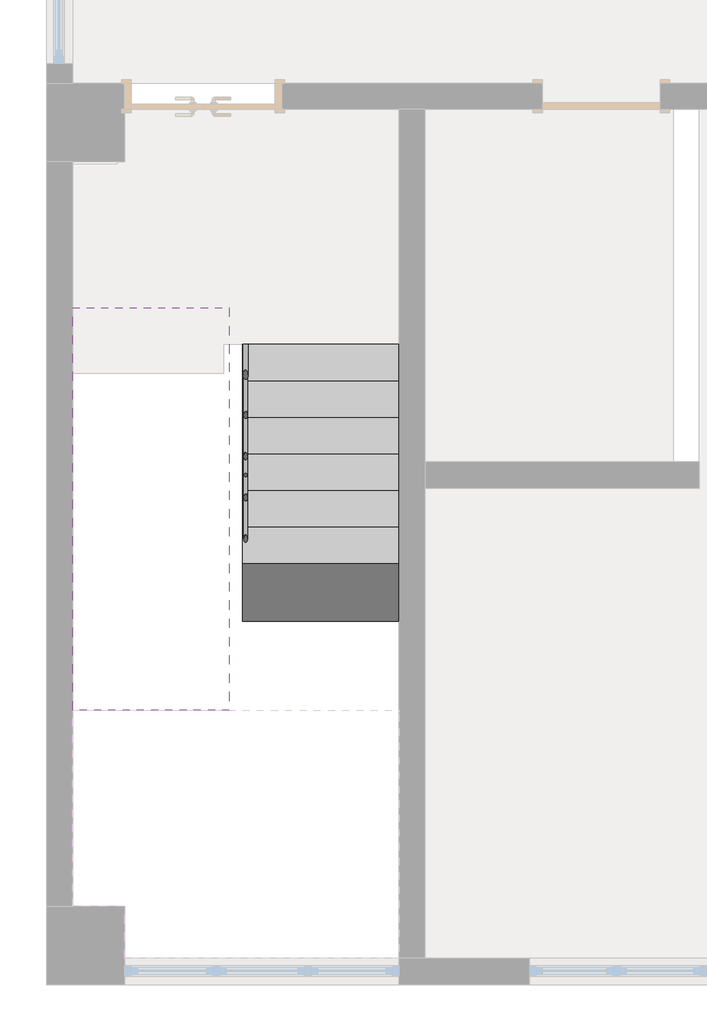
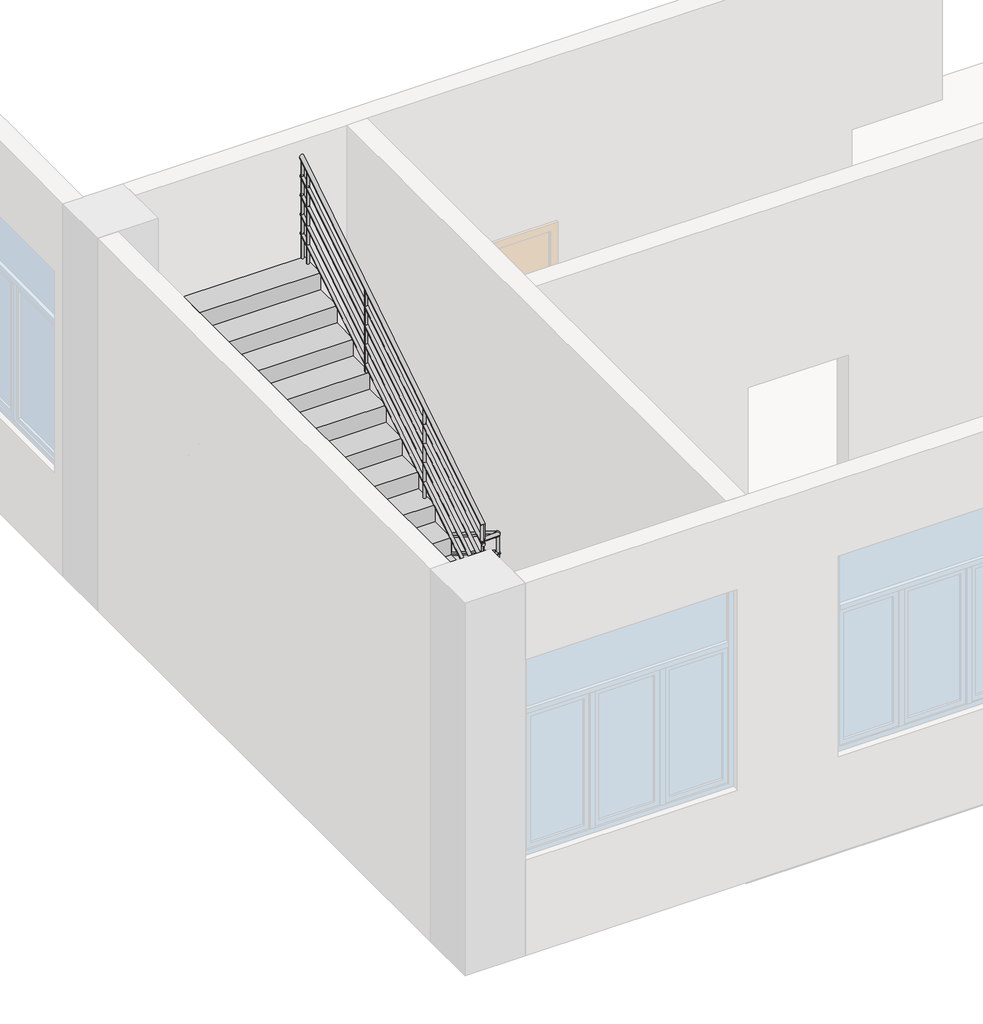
# One storey, part 2 of 5: 2 stair flights, 1 railing.
"""IFC4 building model written with IfcOpenShell, lengths in millimetres."""

from ifc_helpers import new_model, si_unit, point, frame, frame_2d, origin, place, context, project, spatial, circle_curve, ellipse_curve, trimmed, segment, composite_curve, outline, extrude, faceted_brep, element, save
from ifc_brep_helpers import plane_surface, cylinder_surface, advanced_brep

model = new_model("IFC4")

# Units and contexts
model_context = context("Model", 3, world=origin())
ifc_project = project(units=[si_unit("LENGTHUNIT", "METRE", prefix="MILLI")], contexts=[model_context])

# Site, building, storey
site = spatial("IfcSite", under=ifc_project)
building = spatial("IfcBuilding", under=site)
storey = spatial("IfcBuildingStorey", under=building, Name="标高 3", Elevation=3200.0)

# Railing
placement = place(None, origin())
element("IfcRailing", 1, ObjectType="900mm 圆管", at=placement, inside=storey, context=model_context, shape_type="SolidModel", body=[
    advanced_brep(
    [(-11176.3675258, -3836.6725016, 4253.6013354), (-11136.3675258, -3836.6725016, 4253.6013354), (-11176.3675258, -6630.472898, 6022.4035344), (-11136.3675258, -6664.2689672, 6043.8003964)],
    [
        (0, 1, ellipse_curve(frame((-11156.3675258, -3836.6725016, 4253.6013354), z_axis=(0.0, 1.0, 0.0), x_axis=(0.0, 0.0, -1.0)), 23.6713919, 20.0)),
        (1, 0, ellipse_curve(frame((-11156.3675258, -3836.6725016, 4253.6013354), z_axis=(0.0, 1.0, 0.0), x_axis=(0.0, 0.0, -1.0)), 23.6713919, 20.0)),
        (2, 3, ellipse_curve(frame((-11156.3675258, -6647.3709326, 6033.1019654), z_axis=(-0.7071067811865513, -0.597435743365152, 0.378246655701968), x_axis=(-0.7071067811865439, 0.5974357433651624, -0.3782466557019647)), 28.2842712, 20.0)),
        (3, 2, ellipse_curve(frame((-11156.3675258, -6647.3709326, 6033.1019654), z_axis=(-0.7071067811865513, -0.597435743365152, 0.378246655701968), x_axis=(-0.7071067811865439, 0.5974357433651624, -0.3782466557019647)), 28.2842712, 20.0)),
        (0, 2),
        (3, 1),
    ],
    [
        plane_surface(frame((-11156.3675258, -3836.6725016, 4277.2727273), z_axis=(0.0, 1.0, 0.0), x_axis=(0.0, 0.0, -1.0))),
        plane_surface(frame((-11156.3675258, -6636.6725016, 6050.0), z_axis=(-0.7071067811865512, -0.5974357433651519, 0.3782466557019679), x_axis=(0.7071067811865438, -0.5974357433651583, 0.37824665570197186))),
        cylinder_surface(frame((-11156.3675258, -3847.3709326, 4260.3746927), z_axis=(0.0, 0.8449017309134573, -0.5349215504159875), x_axis=(1.0, 0.0, 0.0)), 20.0),
    ],
    [
        (0, [[1, 2]]),
        (1, [[3, 4]]),
        (2, [[-1, 5, -4, 6]]),
        (2, [[-2, -6, -3, -5]]),
    ],
),
    advanced_brep(
    [(-11183.9639915, -6642.0725016, 6030.0), (-11150.1679222, -6682.0725016, 6030.0), (-11307.1675258, -6642.0725016, 6030.0), (-11307.1675258, -6682.0725016, 6030.0)],
    [
        (0, 1, ellipse_curve(frame((-11167.0659568, -6662.0725016, 6030.0), z_axis=(0.7071067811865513, 0.597435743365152, -0.378246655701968), x_axis=(0.7071067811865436, -0.5974357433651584, 0.3782466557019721)), 28.2842712, 20.0)),
        (1, 0, ellipse_curve(frame((-11167.0659568, -6662.0725016, 6030.0), z_axis=(0.7071067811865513, 0.597435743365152, -0.378246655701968), x_axis=(0.7071067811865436, -0.5974357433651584, 0.3782466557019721)), 28.2842712, 20.0)),
        (2, 3, ellipse_curve(frame((-11307.1675258, -6662.0725016, 6030.0), z_axis=(-0.7071067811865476, 0.0, 0.7071067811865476), x_axis=(0.7071067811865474, 0.0, 0.7071067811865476)), 28.2842712, 20.0)),
        (3, 2, ellipse_curve(frame((-11307.1675258, -6662.0725016, 6030.0), z_axis=(-0.7071067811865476, 0.0, 0.7071067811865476), x_axis=(0.7071067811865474, 0.0, 0.7071067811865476)), 28.2842712, 20.0)),
        (0, 2),
        (3, 1),
    ],
    [
        plane_surface(frame((-11156.3675258, -6662.0725016, 6050.0), z_axis=(0.7071067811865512, 0.5974357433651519, -0.3782466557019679), x_axis=(0.7071067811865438, -0.5974357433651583, 0.37824665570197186))),
        plane_surface(frame((-11287.1675258, -6662.0725016, 6050.0), z_axis=(-0.7071067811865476, 0.0, 0.7071067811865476), x_axis=(0.7071067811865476, 0.0, 0.7071067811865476))),
        cylinder_surface(frame((-11156.3675258, -6662.0725016, 6030.0), z_axis=(1.0, 0.0, 0.0), x_axis=(0.0, -1.0, 0.0)), 20.0),
    ],
    [
        (0, [[1, 2]]),
        (1, [[3, 4]]),
        (2, [[-1, 5, -4, 6]]),
        (2, [[-2, -6, -3, -5]]),
    ],
),
    advanced_brep(
    [(-11307.1675258, -6642.0725016, 6030.0), (-11307.1675258, -6682.0725016, 6030.0), (-11307.1675258, -6642.0725016, 6176.5111123), (-11307.1675258, -6682.0725016, 6198.5292208)],
    [
        (0, 1, ellipse_curve(frame((-11307.1675258, -6662.0725016, 6030.0), z_axis=(0.7071067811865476, 0.0, -0.7071067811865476), x_axis=(-0.7071067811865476, 0.0, -0.7071067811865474)), 28.2842712, 20.0)),
        (1, 0, ellipse_curve(frame((-11307.1675258, -6662.0725016, 6030.0), z_axis=(0.7071067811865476, 0.0, -0.7071067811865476), x_axis=(-0.7071067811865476, 0.0, -0.7071067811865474)), 28.2842712, 20.0)),
        (2, 3, ellipse_curve(frame((-11307.1675258, -6662.0725016, 6187.5201665), z_axis=(0.0, 0.48222321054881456, 0.8760483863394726), x_axis=(0.0, 0.8760483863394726, -0.48222321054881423)), 22.8297892, 20.0)),
        (3, 2, ellipse_curve(frame((-11307.1675258, -6662.0725016, 6187.5201665), z_axis=(0.0, 0.48222321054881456, 0.8760483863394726), x_axis=(0.0, 0.8760483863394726, -0.48222321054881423)), 22.8297892, 20.0)),
        (0, 2),
        (3, 1),
    ],
    [
        plane_surface(frame((-11307.1675258, -6662.0725016, 6030.0), z_axis=(0.7071067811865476, 0.0, -0.7071067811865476), x_axis=(0.7071067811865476, 0.0, 0.7071067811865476))),
        plane_surface(frame((-11307.1675258, -6662.0725016, 6187.5201665), z_axis=(0.0, 0.48222321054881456, 0.8760483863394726), x_axis=(1.0, 0.0, 0.0))),
        cylinder_surface(frame((-11307.1675258, -6662.0725016, 6030.0), z_axis=(0.0, 0.0, -1.0), x_axis=(0.0, -1.0, 0.0)), 20.0),
    ],
    [
        (0, [[1, 2]]),
        (1, [[3, 4]]),
        (2, [[-1, 5, -4, 6]]),
        (2, [[-2, -6, -3, -5]]),
    ],
),
    advanced_brep(
    [(-11287.1675258, -6662.0725016, 6187.5201665), (-11327.1675258, -6662.0725016, 6187.5201665), (-11287.1675258, -3556.6725016, 8153.6013354), (-11327.1675258, -3556.6725016, 8153.6013354)],
    [
        (0, 1, ellipse_curve(frame((-11307.1675258, -6662.0725016, 6187.5201665), z_axis=(0.0, -0.48222321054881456, -0.8760483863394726), x_axis=(0.0, -0.8760483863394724, 0.4822232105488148)), 22.8297892, 20.0)),
        (1, 0, ellipse_curve(frame((-11307.1675258, -6662.0725016, 6187.5201665), z_axis=(0.0, -0.48222321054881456, -0.8760483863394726), x_axis=(0.0, -0.8760483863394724, 0.4822232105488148)), 22.8297892, 20.0)),
        (2, 3, ellipse_curve(frame((-11307.1675258, -3556.6725016, 8153.6013354), z_axis=(0.0, 1.0, 0.0), x_axis=(0.0, 0.0, -1.0)), 23.6713919, 20.0)),
        (3, 2, ellipse_curve(frame((-11307.1675258, -3556.6725016, 8153.6013354), z_axis=(0.0, 1.0, 0.0), x_axis=(0.0, 0.0, -1.0)), 23.6713919, 20.0)),
        (0, 2),
        (3, 1),
    ],
    [
        plane_surface(frame((-11307.1675258, -6682.0725016, 6198.5292208), z_axis=(0.0, -0.48222321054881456, -0.8760483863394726), x_axis=(1.0, 0.0, 0.0))),
        plane_surface(frame((-11307.1675258, -3556.6725016, 8177.2727273), z_axis=(0.0, 1.0, 0.0), x_axis=(0.0, 0.0, 1.0))),
        cylinder_surface(frame((-11307.1675258, -6671.3740706, 6181.6311862), z_axis=(0.0, -0.8449017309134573, -0.5349215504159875), x_axis=(-1.0, 0.0, 0.0)), 20.0),
    ],
    [
        (0, [[1, 2]]),
        (1, [[3, 4]]),
        (2, [[-1, 5, -4, 6]]),
        (2, [[-2, -6, -3, -5]]),
    ],
),
    advanced_brep(
    [(-11141.3675258, -3836.6725016, 4059.5191833), (-11171.3675258, -3836.6725016, 4059.5191833), (-11141.3675258, -6641.0216889, 5835.0), (-11171.3675258, -6641.0216889, 5835.0), (-11141.3675258, -6647.0725016, 5835.0), (-11171.3675258, -6647.0725016, 5835.0)],
    [
        (0, 1, ellipse_curve(frame((-11156.3675258, -3836.6725016, 4059.5191833), z_axis=(0.0, 1.0, 0.0), x_axis=(0.0, 0.0, -1.0)), 17.7535439, 15.0)),
        (1, 0, ellipse_curve(frame((-11156.3675258, -3836.6725016, 4059.5191833), z_axis=(0.0, 1.0, 0.0), x_axis=(0.0, 0.0, -1.0)), 17.7535439, 15.0)),
        (0, 2),
        (2, 3, ellipse_curve(frame((-11156.3675258, -6641.0216889, 5835.0), z_axis=(0.0, 0.9604430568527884, -0.27847645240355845), x_axis=(0.0, -0.27847645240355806, -0.9604430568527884)), 15.6177921, 15.0)),
        (3, 1),
        (3, 2, ellipse_curve(frame((-11156.3675258, -6641.0216889, 5835.0), z_axis=(0.0, 0.9604430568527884, -0.27847645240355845), x_axis=(0.0, -0.27847645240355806, -0.9604430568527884)), 15.6177921, 15.0)),
        (4, 5, circle_curve(frame((-11156.3675258, -6647.0725016, 5835.0), z_axis=(0.0, -1.0, 0.0), x_axis=(-1.0, 0.0, 0.0)), 15.0)),
        (5, 4, circle_curve(frame((-11156.3675258, -6647.0725016, 5835.0), z_axis=(0.0, -1.0, 0.0), x_axis=(-1.0, 0.0, 0.0)), 15.0)),
        (2, 4),
        (5, 3),
    ],
    [
        plane_surface(frame((-11156.3675258, -3836.6725016, 4077.2727273), z_axis=(0.0, 1.0, 0.0), x_axis=(0.0, 0.0, -1.0))),
        cylinder_surface(frame((-11156.3675258, -3844.6963249, 4064.5992013), z_axis=(0.0, 0.8449017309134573, -0.5349215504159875), x_axis=(-1.0, 0.0, 0.0)), 15.0),
        plane_surface(frame((-11156.3675258, -6647.0725016, 5850.0), z_axis=(0.0, -1.0, 0.0), x_axis=(0.0, 0.0, -1.0))),
        cylinder_surface(frame((-11156.3675258, -6636.6725016, 5835.0), z_axis=(0.0, 1.0, 0.0), x_axis=(-1.0, 0.0, 0.0)), 15.0),
    ],
    [
        (0, [[1, 2]]),
        (1, [[-1, 3, 4, 5]]),
        (1, [[-2, -5, 6, -3]]),
        (2, [[7, 8]]),
        (3, [[-4, 9, -8, 10]]),
        (3, [[-6, -10, -7, -9]]),
    ],
),
    advanced_brep(
    [(-11141.3675258, -3836.6725016, 3859.5191833), (-11171.3675258, -3836.6725016, 3859.5191833), (-11141.3675258, -6641.0216889, 5635.0), (-11171.3675258, -6641.0216889, 5635.0), (-11141.3675258, -6647.0725016, 5635.0), (-11171.3675258, -6647.0725016, 5635.0)],
    [
        (0, 1, ellipse_curve(frame((-11156.3675258, -3836.6725016, 3859.5191833), z_axis=(0.0, 1.0, 0.0), x_axis=(0.0, 0.0, -1.0)), 17.7535439, 15.0)),
        (1, 0, ellipse_curve(frame((-11156.3675258, -3836.6725016, 3859.5191833), z_axis=(0.0, 1.0, 0.0), x_axis=(0.0, 0.0, -1.0)), 17.7535439, 15.0)),
        (0, 2),
        (2, 3, ellipse_curve(frame((-11156.3675258, -6641.0216889, 5635.0), z_axis=(0.0, 0.9604430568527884, -0.27847645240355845), x_axis=(0.0, -0.27847645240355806, -0.9604430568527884)), 15.6177921, 15.0)),
        (3, 1),
        (3, 2, ellipse_curve(frame((-11156.3675258, -6641.0216889, 5635.0), z_axis=(0.0, 0.9604430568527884, -0.27847645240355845), x_axis=(0.0, -0.27847645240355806, -0.9604430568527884)), 15.6177921, 15.0)),
        (4, 5, circle_curve(frame((-11156.3675258, -6647.0725016, 5635.0), z_axis=(0.0, -1.0, 0.0), x_axis=(-1.0, 0.0, 0.0)), 15.0)),
        (5, 4, circle_curve(frame((-11156.3675258, -6647.0725016, 5635.0), z_axis=(0.0, -1.0, 0.0), x_axis=(-1.0, 0.0, 0.0)), 15.0)),
        (2, 4),
        (5, 3),
    ],
    [
        plane_surface(frame((-11156.3675258, -3836.6725016, 3877.2727273), z_axis=(0.0, 1.0, 0.0), x_axis=(0.0, 0.0, -1.0))),
        cylinder_surface(frame((-11156.3675258, -3844.6963249, 3864.5992013), z_axis=(0.0, 0.8449017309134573, -0.5349215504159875), x_axis=(-1.0, 0.0, 0.0)), 15.0),
        plane_surface(frame((-11156.3675258, -6647.0725016, 5650.0), z_axis=(0.0, -1.0, 0.0), x_axis=(0.0, 0.0, -1.0))),
        cylinder_surface(frame((-11156.3675258, -6636.6725016, 5635.0), z_axis=(0.0, 1.0, 0.0), x_axis=(-1.0, 0.0, 0.0)), 15.0),
    ],
    [
        (0, [[1, 2]]),
        (1, [[-1, 3, 4, 5]]),
        (1, [[-2, -5, 6, -3]]),
        (2, [[7, 8]]),
        (3, [[-4, 9, -8, 10]]),
        (3, [[-6, -10, -7, -9]]),
    ],
),
    advanced_brep(
    [(-11141.3675258, -3836.6725016, 3659.5191833), (-11171.3675258, -3836.6725016, 3659.5191833), (-11141.3675258, -6641.0216889, 5435.0), (-11171.3675258, -6641.0216889, 5435.0), (-11141.3675258, -6647.0725016, 5435.0), (-11171.3675258, -6647.0725016, 5435.0)],
    [
        (0, 1, ellipse_curve(frame((-11156.3675258, -3836.6725016, 3659.5191833), z_axis=(0.0, 1.0, 0.0), x_axis=(0.0, 0.0, -1.0)), 17.7535439, 15.0)),
        (1, 0, ellipse_curve(frame((-11156.3675258, -3836.6725016, 3659.5191833), z_axis=(0.0, 1.0, 0.0), x_axis=(0.0, 0.0, -1.0)), 17.7535439, 15.0)),
        (0, 2),
        (2, 3, ellipse_curve(frame((-11156.3675258, -6641.0216889, 5435.0), z_axis=(0.0, 0.9604430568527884, -0.27847645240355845), x_axis=(0.0, -0.27847645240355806, -0.9604430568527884)), 15.6177921, 15.0)),
        (3, 1),
        (3, 2, ellipse_curve(frame((-11156.3675258, -6641.0216889, 5435.0), z_axis=(0.0, 0.9604430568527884, -0.27847645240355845), x_axis=(0.0, -0.27847645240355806, -0.9604430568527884)), 15.6177921, 15.0)),
        (4, 5, circle_curve(frame((-11156.3675258, -6647.0725016, 5435.0), z_axis=(0.0, -1.0, 0.0), x_axis=(-1.0, 0.0, 0.0)), 15.0)),
        (5, 4, circle_curve(frame((-11156.3675258, -6647.0725016, 5435.0), z_axis=(0.0, -1.0, 0.0), x_axis=(-1.0, 0.0, 0.0)), 15.0)),
        (2, 4),
        (5, 3),
    ],
    [
        plane_surface(frame((-11156.3675258, -3836.6725016, 3677.2727273), z_axis=(0.0, 1.0, 0.0), x_axis=(0.0, 0.0, -1.0))),
        cylinder_surface(frame((-11156.3675258, -3844.6963249, 3664.5992013), z_axis=(0.0, 0.8449017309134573, -0.5349215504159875), x_axis=(-1.0, 0.0, 0.0)), 15.0),
        plane_surface(frame((-11156.3675258, -6647.0725016, 5450.0), z_axis=(0.0, -1.0, 0.0), x_axis=(0.0, 0.0, -1.0))),
        cylinder_surface(frame((-11156.3675258, -6636.6725016, 5435.0), z_axis=(0.0, 1.0, 0.0), x_axis=(-1.0, 0.0, 0.0)), 15.0),
    ],
    [
        (0, [[1, 2]]),
        (1, [[-1, 3, 4, 5]]),
        (1, [[-2, -5, 6, -3]]),
        (2, [[7, 8]]),
        (3, [[-4, 9, -8, 10]]),
        (3, [[-6, -10, -7, -9]]),
    ],
),
    advanced_brep(
    [(-11141.3675258, -3836.6725016, 3459.5191833), (-11171.3675258, -3836.6725016, 3459.5191833), (-11141.3675258, -6641.0216889, 5235.0), (-11171.3675258, -6641.0216889, 5235.0), (-11141.3675258, -6647.0725016, 5235.0), (-11171.3675258, -6647.0725016, 5235.0)],
    [
        (0, 1, ellipse_curve(frame((-11156.3675258, -3836.6725016, 3459.5191833), z_axis=(0.0, 1.0, 0.0), x_axis=(0.0, 0.0, -1.0)), 17.7535439, 15.0)),
        (1, 0, ellipse_curve(frame((-11156.3675258, -3836.6725016, 3459.5191833), z_axis=(0.0, 1.0, 0.0), x_axis=(0.0, 0.0, -1.0)), 17.7535439, 15.0)),
        (0, 2),
        (2, 3, ellipse_curve(frame((-11156.3675258, -6641.0216889, 5235.0), z_axis=(0.0, 0.9604430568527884, -0.27847645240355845), x_axis=(0.0, -0.27847645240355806, -0.9604430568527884)), 15.6177921, 15.0)),
        (3, 1),
        (3, 2, ellipse_curve(frame((-11156.3675258, -6641.0216889, 5235.0), z_axis=(0.0, 0.9604430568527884, -0.27847645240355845), x_axis=(0.0, -0.27847645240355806, -0.9604430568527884)), 15.6177921, 15.0)),
        (4, 5, circle_curve(frame((-11156.3675258, -6647.0725016, 5235.0), z_axis=(0.0, -1.0, 0.0), x_axis=(-1.0, 0.0, 0.0)), 15.0)),
        (5, 4, circle_curve(frame((-11156.3675258, -6647.0725016, 5235.0), z_axis=(0.0, -1.0, 0.0), x_axis=(-1.0, 0.0, 0.0)), 15.0)),
        (2, 4),
        (5, 3),
    ],
    [
        plane_surface(frame((-11156.3675258, -3836.6725016, 3477.2727273), z_axis=(0.0, 1.0, 0.0), x_axis=(0.0, 0.0, -1.0))),
        cylinder_surface(frame((-11156.3675258, -3844.6963249, 3464.5992013), z_axis=(0.0, 0.8449017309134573, -0.5349215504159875), x_axis=(-1.0, 0.0, 0.0)), 15.0),
        plane_surface(frame((-11156.3675258, -6647.0725016, 5250.0), z_axis=(0.0, -1.0, 0.0), x_axis=(0.0, 0.0, -1.0))),
        cylinder_surface(frame((-11156.3675258, -6636.6725016, 5235.0), z_axis=(0.0, 1.0, 0.0), x_axis=(-1.0, 0.0, 0.0)), 15.0),
    ],
    [
        (0, [[1, 2]]),
        (1, [[-1, 3, 4, 5]]),
        (1, [[-2, -5, 6, -3]]),
        (2, [[7, 8]]),
        (3, [[-4, 9, -8, 10]]),
        (3, [[-6, -10, -7, -9]]),
    ],
),
    advanced_brep(
    [(-11141.3675258, -6677.0725016, 5835.0), (-11141.3675258, -6647.0725016, 5835.0), (-11292.1675258, -6677.0725016, 5835.0), (-11292.1675258, -6647.0725016, 5835.0)],
    [
        (0, 1, circle_curve(frame((-11141.3675258, -6662.0725016, 5835.0), z_axis=(1.0, 0.0, 0.0), x_axis=(0.0, 1.0, 0.0)), 15.0)),
        (1, 0, circle_curve(frame((-11141.3675258, -6662.0725016, 5835.0), z_axis=(1.0, 0.0, 0.0), x_axis=(0.0, 1.0, 0.0)), 15.0)),
        (2, 3, circle_curve(frame((-11292.1675258, -6662.0725016, 5835.0), z_axis=(-1.0, 0.0, 0.0), x_axis=(0.0, 1.0, 0.0)), 15.0)),
        (3, 2, circle_curve(frame((-11292.1675258, -6662.0725016, 5835.0), z_axis=(-1.0, 0.0, 0.0), x_axis=(0.0, 1.0, 0.0)), 15.0)),
        (0, 2),
        (3, 1),
    ],
    [
        plane_surface(frame((-11141.3675258, -6662.0725016, 5850.0), z_axis=(1.0, 0.0, 0.0), x_axis=(0.0, -1.0, 0.0))),
        plane_surface(frame((-11292.1675258, -6662.0725016, 5850.0), z_axis=(-1.0, 0.0, 0.0), x_axis=(0.0, -1.0, 0.0))),
        cylinder_surface(frame((-11141.3675258, -6662.0725016, 5835.0), z_axis=(1.0, 0.0, 0.0), x_axis=(0.0, 1.0, 0.0)), 15.0),
    ],
    [
        (0, [[1, 2]]),
        (1, [[3, 4]]),
        (2, [[-1, 5, -4, 6]]),
        (2, [[-2, -6, -3, -5]]),
    ],
),
    advanced_brep(
    [(-11322.1675258, -6677.0725016, 5983.9412613), (-11292.1675258, -6677.0725016, 5983.9412613), (-11322.1675258, -3556.6725016, 7959.5191833), (-11292.1675258, -3556.6725016, 7959.5191833)],
    [
        (0, 1, ellipse_curve(frame((-11307.1675258, -6677.0725016, 5983.9412613), z_axis=(0.0, -1.0, 0.0), x_axis=(0.0, 0.0, -1.0)), 17.7535439, 15.0)),
        (1, 0, ellipse_curve(frame((-11307.1675258, -6677.0725016, 5983.9412613), z_axis=(0.0, -1.0, 0.0), x_axis=(0.0, 0.0, -1.0)), 17.7535439, 15.0)),
        (2, 3, ellipse_curve(frame((-11307.1675258, -3556.6725016, 7959.5191833), z_axis=(0.0, 1.0, 0.0), x_axis=(0.0, 0.0, -1.0)), 17.7535439, 15.0)),
        (3, 2, ellipse_curve(frame((-11307.1675258, -3556.6725016, 7959.5191833), z_axis=(0.0, 1.0, 0.0), x_axis=(0.0, 0.0, -1.0)), 17.7535439, 15.0)),
        (0, 2),
        (3, 1),
    ],
    [
        plane_surface(frame((-11307.1675258, -6677.0725016, 6001.6948052), z_axis=(0.0, -1.0, 0.0), x_axis=(0.0, 0.0, 1.0))),
        plane_surface(frame((-11307.1675258, -3556.6725016, 7977.2727273), z_axis=(0.0, 1.0, 0.0), x_axis=(0.0, 0.0, 1.0))),
        cylinder_surface(frame((-11307.1675258, -6669.0486783, 5989.0212792), z_axis=(0.0, -0.8449017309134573, -0.5349215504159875), x_axis=(1.0, 0.0, 0.0)), 15.0),
    ],
    [
        (0, [[1, 2]]),
        (1, [[3, 4]]),
        (2, [[-1, 5, -4, 6]]),
        (2, [[-2, -6, -3, -5]]),
    ],
),
    advanced_brep(
    [(-11141.3675258, -6677.0725016, 5635.0), (-11141.3675258, -6647.0725016, 5635.0), (-11292.1675258, -6677.0725016, 5635.0), (-11292.1675258, -6647.0725016, 5635.0)],
    [
        (0, 1, circle_curve(frame((-11141.3675258, -6662.0725016, 5635.0), z_axis=(1.0, 0.0, 0.0), x_axis=(0.0, 1.0, 0.0)), 15.0)),
        (1, 0, circle_curve(frame((-11141.3675258, -6662.0725016, 5635.0), z_axis=(1.0, 0.0, 0.0), x_axis=(0.0, 1.0, 0.0)), 15.0)),
        (2, 3, circle_curve(frame((-11292.1675258, -6662.0725016, 5635.0), z_axis=(-1.0, 0.0, 0.0), x_axis=(0.0, 1.0, 0.0)), 15.0)),
        (3, 2, circle_curve(frame((-11292.1675258, -6662.0725016, 5635.0), z_axis=(-1.0, 0.0, 0.0), x_axis=(0.0, 1.0, 0.0)), 15.0)),
        (0, 2),
        (3, 1),
    ],
    [
        plane_surface(frame((-11141.3675258, -6662.0725016, 5650.0), z_axis=(1.0, 0.0, 0.0), x_axis=(0.0, -1.0, 0.0))),
        plane_surface(frame((-11292.1675258, -6662.0725016, 5650.0), z_axis=(-1.0, 0.0, 0.0), x_axis=(0.0, -1.0, 0.0))),
        cylinder_surface(frame((-11141.3675258, -6662.0725016, 5635.0), z_axis=(1.0, 0.0, 0.0), x_axis=(0.0, 1.0, 0.0)), 15.0),
    ],
    [
        (0, [[1, 2]]),
        (1, [[3, 4]]),
        (2, [[-1, 5, -4, 6]]),
        (2, [[-2, -6, -3, -5]]),
    ],
),
    advanced_brep(
    [(-11322.1675258, -6677.0725016, 5783.9412613), (-11292.1675258, -6677.0725016, 5783.9412613), (-11322.1675258, -3556.6725016, 7759.5191833), (-11292.1675258, -3556.6725016, 7759.5191833)],
    [
        (0, 1, ellipse_curve(frame((-11307.1675258, -6677.0725016, 5783.9412613), z_axis=(0.0, -1.0, 0.0), x_axis=(0.0, 0.0, -1.0)), 17.7535439, 15.0)),
        (1, 0, ellipse_curve(frame((-11307.1675258, -6677.0725016, 5783.9412613), z_axis=(0.0, -1.0, 0.0), x_axis=(0.0, 0.0, -1.0)), 17.7535439, 15.0)),
        (2, 3, ellipse_curve(frame((-11307.1675258, -3556.6725016, 7759.5191833), z_axis=(0.0, 1.0, 0.0), x_axis=(0.0, 0.0, -1.0)), 17.7535439, 15.0)),
        (3, 2, ellipse_curve(frame((-11307.1675258, -3556.6725016, 7759.5191833), z_axis=(0.0, 1.0, 0.0), x_axis=(0.0, 0.0, -1.0)), 17.7535439, 15.0)),
        (0, 2),
        (3, 1),
    ],
    [
        plane_surface(frame((-11307.1675258, -6677.0725016, 5801.6948052), z_axis=(0.0, -1.0, 0.0), x_axis=(0.0, 0.0, 1.0))),
        plane_surface(frame((-11307.1675258, -3556.6725016, 7777.2727273), z_axis=(0.0, 1.0, 0.0), x_axis=(0.0, 0.0, 1.0))),
        cylinder_surface(frame((-11307.1675258, -6669.0486783, 5789.0212792), z_axis=(0.0, -0.8449017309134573, -0.5349215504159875), x_axis=(1.0, 0.0, 0.0)), 15.0),
    ],
    [
        (0, [[1, 2]]),
        (1, [[3, 4]]),
        (2, [[-1, 5, -4, 6]]),
        (2, [[-2, -6, -3, -5]]),
    ],
),
    advanced_brep(
    [(-11141.3675258, -6677.0725016, 5435.0), (-11141.3675258, -6647.0725016, 5435.0), (-11292.1675258, -6677.0725016, 5435.0), (-11292.1675258, -6647.0725016, 5435.0)],
    [
        (0, 1, circle_curve(frame((-11141.3675258, -6662.0725016, 5435.0), z_axis=(1.0, 0.0, 0.0), x_axis=(0.0, 1.0, 0.0)), 15.0)),
        (1, 0, circle_curve(frame((-11141.3675258, -6662.0725016, 5435.0), z_axis=(1.0, 0.0, 0.0), x_axis=(0.0, 1.0, 0.0)), 15.0)),
        (2, 3, circle_curve(frame((-11292.1675258, -6662.0725016, 5435.0), z_axis=(-1.0, 0.0, 0.0), x_axis=(0.0, 1.0, 0.0)), 15.0)),
        (3, 2, circle_curve(frame((-11292.1675258, -6662.0725016, 5435.0), z_axis=(-1.0, 0.0, 0.0), x_axis=(0.0, 1.0, 0.0)), 15.0)),
        (0, 2),
        (3, 1),
    ],
    [
        plane_surface(frame((-11141.3675258, -6662.0725016, 5450.0), z_axis=(1.0, 0.0, 0.0), x_axis=(0.0, -1.0, 0.0))),
        plane_surface(frame((-11292.1675258, -6662.0725016, 5450.0), z_axis=(-1.0, 0.0, 0.0), x_axis=(0.0, -1.0, 0.0))),
        cylinder_surface(frame((-11141.3675258, -6662.0725016, 5435.0), z_axis=(1.0, 0.0, 0.0), x_axis=(0.0, 1.0, 0.0)), 15.0),
    ],
    [
        (0, [[1, 2]]),
        (1, [[3, 4]]),
        (2, [[-1, 5, -4, 6]]),
        (2, [[-2, -6, -3, -5]]),
    ],
),
    advanced_brep(
    [(-11322.1675258, -6677.0725016, 5583.9412613), (-11292.1675258, -6677.0725016, 5583.9412613), (-11322.1675258, -3556.6725016, 7559.5191833), (-11292.1675258, -3556.6725016, 7559.5191833)],
    [
        (0, 1, ellipse_curve(frame((-11307.1675258, -6677.0725016, 5583.9412613), z_axis=(0.0, -1.0, 0.0), x_axis=(0.0, 0.0, -1.0)), 17.7535439, 15.0)),
        (1, 0, ellipse_curve(frame((-11307.1675258, -6677.0725016, 5583.9412613), z_axis=(0.0, -1.0, 0.0), x_axis=(0.0, 0.0, -1.0)), 17.7535439, 15.0)),
        (2, 3, ellipse_curve(frame((-11307.1675258, -3556.6725016, 7559.5191833), z_axis=(0.0, 1.0, 0.0), x_axis=(0.0, 0.0, -1.0)), 17.7535439, 15.0)),
        (3, 2, ellipse_curve(frame((-11307.1675258, -3556.6725016, 7559.5191833), z_axis=(0.0, 1.0, 0.0), x_axis=(0.0, 0.0, -1.0)), 17.7535439, 15.0)),
        (0, 2),
        (3, 1),
    ],
    [
        plane_surface(frame((-11307.1675258, -6677.0725016, 5601.6948052), z_axis=(0.0, -1.0, 0.0), x_axis=(0.0, 0.0, 1.0))),
        plane_surface(frame((-11307.1675258, -3556.6725016, 7577.2727273), z_axis=(0.0, 1.0, 0.0), x_axis=(0.0, 0.0, 1.0))),
        cylinder_surface(frame((-11307.1675258, -6669.0486783, 5589.0212792), z_axis=(0.0, -0.8449017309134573, -0.5349215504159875), x_axis=(1.0, 0.0, 0.0)), 15.0),
    ],
    [
        (0, [[1, 2]]),
        (1, [[3, 4]]),
        (2, [[-1, 5, -4, 6]]),
        (2, [[-2, -6, -3, -5]]),
    ],
),
    advanced_brep(
    [(-11141.3675258, -6677.0725016, 5235.0), (-11141.3675258, -6647.0725016, 5235.0), (-11292.1675258, -6677.0725016, 5235.0), (-11292.1675258, -6647.0725016, 5235.0)],
    [
        (0, 1, circle_curve(frame((-11141.3675258, -6662.0725016, 5235.0), z_axis=(1.0, 0.0, 0.0), x_axis=(0.0, 1.0, 0.0)), 15.0)),
        (1, 0, circle_curve(frame((-11141.3675258, -6662.0725016, 5235.0), z_axis=(1.0, 0.0, 0.0), x_axis=(0.0, 1.0, 0.0)), 15.0)),
        (2, 3, circle_curve(frame((-11292.1675258, -6662.0725016, 5235.0), z_axis=(-1.0, 0.0, 0.0), x_axis=(0.0, 1.0, 0.0)), 15.0)),
        (3, 2, circle_curve(frame((-11292.1675258, -6662.0725016, 5235.0), z_axis=(-1.0, 0.0, 0.0), x_axis=(0.0, 1.0, 0.0)), 15.0)),
        (0, 2),
        (3, 1),
    ],
    [
        plane_surface(frame((-11141.3675258, -6662.0725016, 5250.0), z_axis=(1.0, 0.0, 0.0), x_axis=(0.0, -1.0, 0.0))),
        plane_surface(frame((-11292.1675258, -6662.0725016, 5250.0), z_axis=(-1.0, 0.0, 0.0), x_axis=(0.0, -1.0, 0.0))),
        cylinder_surface(frame((-11141.3675258, -6662.0725016, 5235.0), z_axis=(1.0, 0.0, 0.0), x_axis=(0.0, 1.0, 0.0)), 15.0),
    ],
    [
        (0, [[1, 2]]),
        (1, [[3, 4]]),
        (2, [[-1, 5, -4, 6]]),
        (2, [[-2, -6, -3, -5]]),
    ],
),
    advanced_brep(
    [(-11322.1675258, -6677.0725016, 5383.9412613), (-11292.1675258, -6677.0725016, 5383.9412613), (-11322.1675258, -3556.6725016, 7359.5191833), (-11292.1675258, -3556.6725016, 7359.5191833)],
    [
        (0, 1, ellipse_curve(frame((-11307.1675258, -6677.0725016, 5383.9412613), z_axis=(0.0, -1.0, 0.0), x_axis=(0.0, 0.0, -1.0)), 17.7535439, 15.0)),
        (1, 0, ellipse_curve(frame((-11307.1675258, -6677.0725016, 5383.9412613), z_axis=(0.0, -1.0, 0.0), x_axis=(0.0, 0.0, -1.0)), 17.7535439, 15.0)),
        (2, 3, ellipse_curve(frame((-11307.1675258, -3556.6725016, 7359.5191833), z_axis=(0.0, 1.0, 0.0), x_axis=(0.0, 0.0, -1.0)), 17.7535439, 15.0)),
        (3, 2, ellipse_curve(frame((-11307.1675258, -3556.6725016, 7359.5191833), z_axis=(0.0, 1.0, 0.0), x_axis=(0.0, 0.0, -1.0)), 17.7535439, 15.0)),
        (0, 2),
        (3, 1),
    ],
    [
        plane_surface(frame((-11307.1675258, -6677.0725016, 5401.6948052), z_axis=(0.0, -1.0, 0.0), x_axis=(0.0, 0.0, 1.0))),
        plane_surface(frame((-11307.1675258, -3556.6725016, 7377.2727273), z_axis=(0.0, 1.0, 0.0), x_axis=(0.0, 0.0, 1.0))),
        cylinder_surface(frame((-11307.1675258, -6669.0486783, 5389.0212792), z_axis=(0.0, -0.8449017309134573, -0.5349215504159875), x_axis=(1.0, 0.0, 0.0)), 15.0),
    ],
    [
        (0, [[1, 2]]),
        (1, [[3, 4]]),
        (2, [[-1, 5, -4, 6]]),
        (2, [[-2, -6, -3, -5]]),
    ],
),
    advanced_brep(
    [(-11294.6675258, -3662.0725016, 8063.199424), (-11294.6675258, -3662.0725016, 7100.0), (-11319.6675258, -3662.0725016, 7100.0), (-11319.6675258, -3662.0725016, 8063.199424)],
    [
        (0, 1),
        (1, 2, circle_curve(frame((-11307.1675258, -3662.0725016, 7100.0), z_axis=(0.0, 0.0, 1.0), x_axis=(-1.0, 0.0, 0.0)), 12.5)),
        (2, 3),
        (3, 0, ellipse_curve(frame((-11307.1675258, -3662.0725016, 8063.199424), z_axis=(0.0, 0.5349215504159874, -0.8449017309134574), x_axis=(0.0, 0.8449017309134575, 0.5349215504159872)), 14.7946199, 12.5)),
        (0, 3, ellipse_curve(frame((-11307.1675258, -3662.0725016, 8063.199424), z_axis=(0.0, 0.5349215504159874, -0.8449017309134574), x_axis=(0.0, 0.8449017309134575, 0.5349215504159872)), 14.7946199, 12.5)),
        (2, 1, circle_curve(frame((-11307.1675258, -3662.0725016, 7100.0), z_axis=(0.0, 0.0, 1.0), x_axis=(-1.0, 0.0, 0.0)), 12.5)),
    ],
    [
        cylinder_surface(frame((-11307.1675258, -3662.0725016, 7000.0), z_axis=(0.0, 0.0, 1.0), x_axis=(-1.0, 0.0, 0.0)), 12.5),
        plane_surface(frame((-11332.1675258, -3637.0725016, 8079.027346), z_axis=(0.0, -0.5349215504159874, 0.8449017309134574), x_axis=(1.0, 0.0, 0.0))),
        plane_surface(frame((-11332.1675258, -3687.0725016, 7100.0), z_axis=(0.0, 0.0, -1.0), x_axis=(1.0, 0.0, 0.0))),
    ],
    [
        (0, [[1, 2, 3, 4]]),
        (0, [[-1, 5, -3, 6]]),
        (1, [[-4, -5]]),
        (2, [[-2, -6]]),
    ],
),
    advanced_brep(
    [(-11294.6675258, -4662.0725016, 7430.0825409), (-11294.6675258, -4662.0725016, 6568.1818182), (-11319.6675258, -4662.0725016, 6568.1818182), (-11319.6675258, -4662.0725016, 7430.0825409)],
    [
        (0, 1),
        (1, 2, circle_curve(frame((-11307.1675258, -4662.0725016, 6568.1818182), z_axis=(0.0, 0.0, 1.0), x_axis=(-1.0, 0.0, 0.0)), 12.5)),
        (2, 3),
        (3, 0, ellipse_curve(frame((-11307.1675258, -4662.0725016, 7430.0825409), z_axis=(0.0, 0.5349215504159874, -0.8449017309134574), x_axis=(0.0, 0.8449017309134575, 0.5349215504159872)), 14.7946199, 12.5)),
        (0, 3, ellipse_curve(frame((-11307.1675258, -4662.0725016, 7430.0825409), z_axis=(0.0, 0.5349215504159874, -0.8449017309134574), x_axis=(0.0, 0.8449017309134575, 0.5349215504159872)), 14.7946199, 12.5)),
        (2, 1, circle_curve(frame((-11307.1675258, -4662.0725016, 6568.1818182), z_axis=(0.0, 0.0, 1.0), x_axis=(-1.0, 0.0, 0.0)), 12.5)),
    ],
    [
        cylinder_surface(frame((-11307.1675258, -4662.0725016, 6468.1818182), z_axis=(0.0, 0.0, 1.0), x_axis=(-1.0, 0.0, 0.0)), 12.5),
        plane_surface(frame((-11332.1675258, -4637.0725016, 7445.9104629), z_axis=(0.0, -0.5349215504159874, 0.8449017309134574), x_axis=(1.0, 0.0, 0.0))),
        plane_surface(frame((-11332.1675258, -4687.0725016, 6568.1818182), z_axis=(0.0, 0.0, -1.0), x_axis=(1.0, 0.0, 0.0))),
    ],
    [
        (0, [[1, 2, 3, 4]]),
        (0, [[-1, 5, -3, 6]]),
        (1, [[-4, -5]]),
        (2, [[-2, -6]]),
    ],
),
    advanced_brep(
    [(-11294.6675258, -5662.0725016, 6796.9656577), (-11294.6675258, -5662.0725016, 5859.0909091), (-11319.6675258, -5662.0725016, 5859.0909091), (-11319.6675258, -5662.0725016, 6796.9656577)],
    [
        (0, 1),
        (1, 2, circle_curve(frame((-11307.1675258, -5662.0725016, 5859.0909091), z_axis=(0.0, 0.0, 1.0), x_axis=(-1.0, 0.0, 0.0)), 12.5)),
        (2, 3),
        (3, 0, ellipse_curve(frame((-11307.1675258, -5662.0725016, 6796.9656577), z_axis=(0.0, 0.5349215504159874, -0.8449017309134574), x_axis=(0.0, 0.8449017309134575, 0.5349215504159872)), 14.7946199, 12.5)),
        (0, 3, ellipse_curve(frame((-11307.1675258, -5662.0725016, 6796.9656577), z_axis=(0.0, 0.5349215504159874, -0.8449017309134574), x_axis=(0.0, 0.8449017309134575, 0.5349215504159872)), 14.7946199, 12.5)),
        (2, 1, circle_curve(frame((-11307.1675258, -5662.0725016, 5859.0909091), z_axis=(0.0, 0.0, 1.0), x_axis=(-1.0, 0.0, 0.0)), 12.5)),
    ],
    [
        cylinder_surface(frame((-11307.1675258, -5662.0725016, 5759.0909091), z_axis=(0.0, 0.0, 1.0), x_axis=(-1.0, 0.0, 0.0)), 12.5),
        plane_surface(frame((-11332.1675258, -5637.0725016, 6812.7935798), z_axis=(0.0, -0.5349215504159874, 0.8449017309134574), x_axis=(1.0, 0.0, 0.0))),
        plane_surface(frame((-11332.1675258, -5687.0725016, 5859.0909091), z_axis=(0.0, 0.0, -1.0), x_axis=(1.0, 0.0, 0.0))),
    ],
    [
        (0, [[1, 2, 3, 4]]),
        (0, [[-1, 5, -3, 6]]),
        (1, [[-4, -5]]),
        (2, [[-2, -6]]),
    ],
),
    advanced_brep(
    [(-11168.8675258, -5836.6725016, 5496.1637097), (-11168.8675258, -5836.6725016, 4618.1818182), (-11143.8675258, -5836.6725016, 4618.1818182), (-11143.8675258, -5836.6725016, 5496.1637097)],
    [
        (0, 1),
        (1, 2, circle_curve(frame((-11156.3675258, -5836.6725016, 4618.1818182), z_axis=(0.0, 0.0, 1.0), x_axis=(1.0, 0.0, 0.0)), 12.5)),
        (2, 3),
        (3, 0, ellipse_curve(frame((-11156.3675258, -5836.6725016, 5496.1637097), z_axis=(0.0, -0.5349215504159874, -0.8449017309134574), x_axis=(0.0, -0.8449017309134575, 0.5349215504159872)), 14.7946199, 12.5)),
        (0, 3, ellipse_curve(frame((-11156.3675258, -5836.6725016, 5496.1637097), z_axis=(0.0, -0.5349215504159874, -0.8449017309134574), x_axis=(0.0, -0.8449017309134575, 0.5349215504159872)), 14.7946199, 12.5)),
        (2, 1, circle_curve(frame((-11156.3675258, -5836.6725016, 4618.1818182), z_axis=(0.0, 0.0, 1.0), x_axis=(1.0, 0.0, 0.0)), 12.5)),
    ],
    [
        cylinder_surface(frame((-11156.3675258, -5836.6725016, 4518.1818182), z_axis=(0.0, 0.0, 1.0), x_axis=(1.0, 0.0, 0.0)), 12.5),
        plane_surface(frame((-11131.3675258, -5861.6725016, 5511.9916318), z_axis=(0.0, 0.5349215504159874, 0.8449017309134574), x_axis=(-1.0, 0.0, 0.0))),
        plane_surface(frame((-11131.3675258, -5811.6725016, 4618.1818182), z_axis=(0.0, 0.0, -1.0), x_axis=(-1.0, 0.0, 0.0))),
    ],
    [
        (0, [[1, 2, 3, 4]]),
        (0, [[-1, 5, -3, 6]]),
        (1, [[-4, -5]]),
        (2, [[-2, -6]]),
    ],
),
    advanced_brep(
    [(-11168.8675258, -4836.6725016, 4863.0468266), (-11168.8675258, -4836.6725016, 3909.0909091), (-11143.8675258, -4836.6725016, 3909.0909091), (-11143.8675258, -4836.6725016, 4863.0468266)],
    [
        (0, 1),
        (1, 2, circle_curve(frame((-11156.3675258, -4836.6725016, 3909.0909091), z_axis=(0.0, 0.0, 1.0), x_axis=(1.0, 0.0, 0.0)), 12.5)),
        (2, 3),
        (3, 0, ellipse_curve(frame((-11156.3675258, -4836.6725016, 4863.0468266), z_axis=(0.0, -0.5349215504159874, -0.8449017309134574), x_axis=(0.0, -0.8449017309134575, 0.5349215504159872)), 14.7946199, 12.5)),
        (0, 3, ellipse_curve(frame((-11156.3675258, -4836.6725016, 4863.0468266), z_axis=(0.0, -0.5349215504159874, -0.8449017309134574), x_axis=(0.0, -0.8449017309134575, 0.5349215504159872)), 14.7946199, 12.5)),
        (2, 1, circle_curve(frame((-11156.3675258, -4836.6725016, 3909.0909091), z_axis=(0.0, 0.0, 1.0), x_axis=(1.0, 0.0, 0.0)), 12.5)),
    ],
    [
        cylinder_surface(frame((-11156.3675258, -4836.6725016, 3809.0909091), z_axis=(0.0, 0.0, 1.0), x_axis=(1.0, 0.0, 0.0)), 12.5),
        plane_surface(frame((-11131.3675258, -4861.6725016, 4878.8747486), z_axis=(0.0, 0.5349215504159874, 0.8449017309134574), x_axis=(-1.0, 0.0, 0.0))),
        plane_surface(frame((-11131.3675258, -4811.6725016, 3909.0909091), z_axis=(0.0, 0.0, -1.0), x_axis=(-1.0, 0.0, 0.0))),
    ],
    [
        (0, [[1, 2, 3, 4]]),
        (0, [[-1, 5, -3, 6]]),
        (1, [[-4, -5]]),
        (2, [[-2, -6]]),
    ],
),
    extrude(outline(composite_curve([segment(trimmed(circle_curve(frame_2d((-11307.1675258, -6662.0725016)), 12.5), [point((-11307.1675258, -6674.5725016))], [point((-11307.1675258, -6649.5725016))], False, "CARTESIAN"), True, "CONTINUOUS"), segment(trimmed(circle_curve(frame_2d((-11307.1675258, -6662.0725016)), 12.5), [point((-11307.1675258, -6649.5725016))], [point((-11307.1675258, -6674.5725016))], False, "CARTESIAN"), True, "CONTINUOUS")], self_intersect=False)), frame((0.0, 0.0, 5150.0), z_axis=(0.0, 0.0, 1.0), x_axis=(1.0, 0.0, 0.0)), (0.0, 0.0, 1.0), 860.0),
    advanced_brep(
    [(-11168.8675258, -6662.0725016, 6018.738385), (-11168.8675258, -6662.0725016, 5150.0), (-11143.8675258, -6662.0725016, 5150.0), (-11143.8675258, -6662.0725016, 6018.738385)],
    [
        (0, 1),
        (1, 2, circle_curve(frame((-11156.3675258, -6662.0725016, 5150.0), z_axis=(0.0, 0.0, 1.0), x_axis=(1.0, 0.0, 0.0)), 12.5)),
        (2, 3),
        (3, 0, ellipse_curve(frame((-11156.3675258, -6662.0725016, 6018.738385), z_axis=(0.0, -0.5349215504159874, -0.8449017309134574), x_axis=(0.0, -0.8449017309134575, 0.5349215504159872)), 14.7946199, 12.5)),
        (0, 3, ellipse_curve(frame((-11156.3675258, -6662.0725016, 6018.738385), z_axis=(0.0, -0.5349215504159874, -0.8449017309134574), x_axis=(0.0, -0.8449017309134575, 0.5349215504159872)), 14.7946199, 12.5)),
        (2, 1, circle_curve(frame((-11156.3675258, -6662.0725016, 5150.0), z_axis=(0.0, 0.0, 1.0), x_axis=(1.0, 0.0, 0.0)), 12.5)),
    ],
    [
        cylinder_surface(frame((-11156.3675258, -6662.0725016, 5050.0), z_axis=(0.0, 0.0, 1.0), x_axis=(1.0, 0.0, 0.0)), 12.5),
        plane_surface(frame((-11131.3675258, -6687.0725016, 6034.5663071), z_axis=(0.0, 0.5349215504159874, 0.8449017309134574), x_axis=(-1.0, 0.0, 0.0))),
        plane_surface(frame((-11131.3675258, -6637.0725016, 5150.0), z_axis=(0.0, 0.0, -1.0), x_axis=(-1.0, 0.0, 0.0))),
    ],
    [
        (0, [[1, 2, 3, 4]]),
        (0, [[-1, 5, -3, 6]]),
        (1, [[-4, -5]]),
        (2, [[-2, -6]]),
    ],
),
    advanced_brep(
    [(-11294.6675258, -3569.1725016, 8122.0159824), (-11294.6675258, -3569.1725016, 7100.0), (-11319.6675258, -3569.1725016, 7100.0), (-11319.6675258, -3569.1725016, 8122.0159824)],
    [
        (0, 1),
        (1, 2, circle_curve(frame((-11307.1675258, -3569.1725016, 7100.0), z_axis=(0.0, 0.0, 1.0), x_axis=(-1.0, 0.0, 0.0)), 12.5)),
        (2, 3),
        (3, 0, ellipse_curve(frame((-11307.1675258, -3569.1725016, 8122.0159824), z_axis=(0.0, 0.5349215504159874, -0.8449017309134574), x_axis=(0.0, 0.8449017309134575, 0.5349215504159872)), 14.7946199, 12.5)),
        (0, 3, ellipse_curve(frame((-11307.1675258, -3569.1725016, 8122.0159824), z_axis=(0.0, 0.5349215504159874, -0.8449017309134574), x_axis=(0.0, 0.8449017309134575, 0.5349215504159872)), 14.7946199, 12.5)),
        (2, 1, circle_curve(frame((-11307.1675258, -3569.1725016, 7100.0), z_axis=(0.0, 0.0, 1.0), x_axis=(-1.0, 0.0, 0.0)), 12.5)),
    ],
    [
        cylinder_surface(frame((-11307.1675258, -3569.1725016, 7000.0), z_axis=(0.0, 0.0, 1.0), x_axis=(-1.0, 0.0, 0.0)), 12.5),
        plane_surface(frame((-11332.1675258, -3544.1725016, 8137.8439045), z_axis=(0.0, -0.5349215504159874, 0.8449017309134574), x_axis=(1.0, 0.0, 0.0))),
        plane_surface(frame((-11332.1675258, -3594.1725016, 7100.0), z_axis=(0.0, 0.0, -1.0), x_axis=(1.0, 0.0, 0.0))),
    ],
    [
        (0, [[1, 2, 3, 4]]),
        (0, [[-1, 5, -3, 6]]),
        (1, [[-4, -5]]),
        (2, [[-2, -6]]),
    ],
),
    advanced_brep(
    [(-11168.8675258, -3849.1725016, 4237.8439045), (-11168.8675258, -3849.1725016, 3377.2727273), (-11143.8675258, -3849.1725016, 3377.2727273), (-11143.8675258, -3849.1725016, 4237.8439045)],
    [
        (0, 1),
        (1, 2, circle_curve(frame((-11156.3675258, -3849.1725016, 3377.2727273), z_axis=(0.0, 0.0, 1.0), x_axis=(1.0, 0.0, 0.0)), 12.5)),
        (2, 3),
        (3, 0, ellipse_curve(frame((-11156.3675258, -3849.1725016, 4237.8439045), z_axis=(0.0, -0.5349215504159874, -0.8449017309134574), x_axis=(0.0, -0.8449017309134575, 0.5349215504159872)), 14.7946199, 12.5)),
        (0, 3, ellipse_curve(frame((-11156.3675258, -3849.1725016, 4237.8439045), z_axis=(0.0, -0.5349215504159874, -0.8449017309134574), x_axis=(0.0, -0.8449017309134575, 0.5349215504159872)), 14.7946199, 12.5)),
        (2, 1, circle_curve(frame((-11156.3675258, -3849.1725016, 3377.2727273), z_axis=(0.0, 0.0, 1.0), x_axis=(1.0, 0.0, 0.0)), 12.5)),
    ],
    [
        cylinder_surface(frame((-11156.3675258, -3849.1725016, 3277.2727273), z_axis=(0.0, 0.0, 1.0), x_axis=(1.0, 0.0, 0.0)), 12.5),
        plane_surface(frame((-11131.3675258, -3874.1725016, 4253.6718266), z_axis=(0.0, 0.5349215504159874, 0.8449017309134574), x_axis=(-1.0, 0.0, 0.0))),
        plane_surface(frame((-11131.3675258, -3824.1725016, 3377.2727273), z_axis=(0.0, 0.0, -1.0), x_axis=(-1.0, 0.0, 0.0))),
    ],
    [
        (0, [[1, 2, 3, 4]]),
        (0, [[-1, 5, -3, 6]]),
        (1, [[-4, -5]]),
        (2, [[-2, -6]]),
    ],
),
])

# Stair flights
element("IfcStairFlight", 2, ObjectType="150", at=placement, inside=storey, context=model_context, shape_type="Brep", body=[
    faceted_brep([(-9981.7675258, -4116.6725016, 3377.2727273), (-9981.7675258, -3836.6725016, 3377.2727273), (-11181.7675258, -3836.6725016, 3377.2727273), (-11181.7675258, -4116.6725016, 3377.2727273), (-9981.7675258, -4116.6725016, 3235.2443758), (-9981.7675258, -4061.0044619, 3200.0), (-9981.7675258, -3836.6725016, 3200.0), (-11181.7675258, -3836.6725016, 3200.0), (-11181.7675258, -4061.0044619, 3200.0), (-11181.7675258, -4116.6725016, 3235.2443758), (-9981.7675258, -4396.6725016, 3554.5454545), (-9981.7675258, -4116.6725016, 3554.5454545), (-11181.7675258, -4116.6725016, 3554.5454545), (-11181.7675258, -4396.6725016, 3554.5454545), (-9981.7675258, -4396.6725016, 3412.5171031), (-11181.7675258, -4396.6725016, 3412.5171031), (-9981.7675258, -4676.6725016, 3731.8181818), (-9981.7675258, -4396.6725016, 3731.8181818), (-11181.7675258, -4396.6725016, 3731.8181818), (-11181.7675258, -4676.6725016, 3731.8181818), (-9981.7675258, -4676.6725016, 3589.7898303), (-11181.7675258, -4676.6725016, 3589.7898303), (-9981.7675258, -4956.6725016, 3909.0909091), (-9981.7675258, -4676.6725016, 3909.0909091), (-11181.7675258, -4676.6725016, 3909.0909091), (-11181.7675258, -4956.6725016, 3909.0909091), (-9981.7675258, -4956.6725016, 3767.0625576), (-11181.7675258, -4956.6725016, 3767.0625576), (-9981.7675258, -5236.6725016, 4086.3636364), (-9981.7675258, -4956.6725016, 4086.3636364), (-11181.7675258, -4956.6725016, 4086.3636364), (-11181.7675258, -5236.6725016, 4086.3636364), (-9981.7675258, -5236.6725016, 3944.3352849), (-11181.7675258, -5236.6725016, 3944.3352849), (-9981.7675258, -5516.6725016, 4263.6363636), (-9981.7675258, -5236.6725016, 4263.6363636), (-11181.7675258, -5236.6725016, 4263.6363636), (-11181.7675258, -5516.6725016, 4263.6363636), (-9981.7675258, -5516.6725016, 4121.6080122), (-11181.7675258, -5516.6725016, 4121.6080122), (-9981.7675258, -5796.6725016, 4440.9090909), (-9981.7675258, -5516.6725016, 4440.9090909), (-11181.7675258, -5516.6725016, 4440.9090909), (-11181.7675258, -5796.6725016, 4440.9090909), (-9981.7675258, -5796.6725016, 4298.8807394), (-11181.7675258, -5796.6725016, 4298.8807394), (-9981.7675258, -6076.6725016, 4618.1818182), (-9981.7675258, -5796.6725016, 4618.1818182), (-11181.7675258, -5796.6725016, 4618.1818182), (-11181.7675258, -6076.6725016, 4618.1818182), (-9981.7675258, -6076.6725016, 4476.1534667), (-11181.7675258, -6076.6725016, 4476.1534667), (-9981.7675258, -6356.6725016, 4795.4545455), (-9981.7675258, -6076.6725016, 4795.4545455), (-11181.7675258, -6076.6725016, 4795.4545455), (-11181.7675258, -6356.6725016, 4795.4545455), (-9981.7675258, -6356.6725016, 4653.426194), (-11181.7675258, -6356.6725016, 4653.426194), (-9981.7675258, -6636.6725016, 4972.7272727), (-9981.7675258, -6356.6725016, 4972.7272727), (-11181.7675258, -6356.6725016, 4972.7272727), (-11181.7675258, -6636.6725016, 4972.7272727), (-9981.7675258, -6636.6725016, 4830.6989213), (-11181.7675258, -6636.6725016, 4830.6989213), (-11181.7675258, -6636.6725016, 4850.0)], [[[0, 1, 2, 3]], [[1, 0, 4, 5, 6]], [[2, 1, 6, 7]], [[3, 2, 7, 8, 9]], [[10, 11, 12, 13]], [[11, 10, 14, 4, 0]], [[0, 3, 12, 11]], [[13, 12, 3, 9, 15]], [[16, 17, 18, 19]], [[17, 16, 20, 14, 10]], [[10, 13, 18, 17]], [[19, 18, 13, 15, 21]], [[22, 23, 24, 25]], [[23, 22, 26, 20, 16]], [[16, 19, 24, 23]], [[25, 24, 19, 21, 27]], [[28, 29, 30, 31]], [[29, 28, 32, 26, 22]], [[22, 25, 30, 29]], [[31, 30, 25, 27, 33]], [[34, 35, 36, 37]], [[35, 34, 38, 32, 28]], [[28, 31, 36, 35]], [[37, 36, 31, 33, 39]], [[40, 41, 42, 43]], [[41, 40, 44, 38, 34]], [[34, 37, 42, 41]], [[43, 42, 37, 39, 45]], [[46, 47, 48, 49]], [[47, 46, 50, 44, 40]], [[40, 43, 48, 47]], [[49, 48, 43, 45, 51]], [[52, 53, 54, 55]], [[53, 52, 56, 50, 46]], [[46, 49, 54, 53]], [[55, 54, 49, 51, 57]], [[58, 59, 60, 61]], [[59, 58, 62, 56, 52]], [[52, 55, 60, 59]], [[61, 60, 55, 57, 63, 64]], [[58, 61, 64, 63, 62]], [[7, 6, 5, 8]], [[8, 5, 4, 14, 20, 26, 32, 38, 44, 50, 56, 62, 63, 57, 51, 45, 39, 33, 27, 21, 15, 9]]]),
])
element("IfcStairFlight", 3, ObjectType="150", at=placement, inside=storey, context=model_context, shape_type="Brep", body=[
    faceted_brep([(-12481.7675258, -6356.6725016, 5327.2727273), (-12481.7675258, -6636.6725016, 5327.2727273), (-11281.7675258, -6636.6725016, 5327.2727273), (-11281.7675258, -6356.6725016, 5327.2727273), (-12481.7675258, -6356.6725016, 5185.2443758), (-12481.7675258, -6636.6725016, 5007.9716485), (-12481.7675258, -6636.6725016, 5150.0), (-11281.7675258, -6636.6725016, 5007.9716485), (-11281.7675258, -6356.6725016, 5185.2443758), (-12481.7675258, -6076.6725016, 5504.5454545), (-12481.7675258, -6356.6725016, 5504.5454545), (-11281.7675258, -6356.6725016, 5504.5454545), (-11281.7675258, -6076.6725016, 5504.5454545), (-12481.7675258, -6076.6725016, 5362.5171031), (-11281.7675258, -6076.6725016, 5362.5171031), (-12481.7675258, -5796.6725016, 5681.8181818), (-12481.7675258, -6076.6725016, 5681.8181818), (-11281.7675258, -6076.6725016, 5681.8181818), (-11281.7675258, -5796.6725016, 5681.8181818), (-12481.7675258, -5796.6725016, 5539.7898303), (-11281.7675258, -5796.6725016, 5539.7898303), (-12481.7675258, -5516.6725016, 5859.0909091), (-12481.7675258, -5796.6725016, 5859.0909091), (-11281.7675258, -5796.6725016, 5859.0909091), (-11281.7675258, -5516.6725016, 5859.0909091), (-12481.7675258, -5516.6725016, 5717.0625576), (-11281.7675258, -5516.6725016, 5717.0625576), (-12481.7675258, -5236.6725016, 6036.3636364), (-12481.7675258, -5516.6725016, 6036.3636364), (-11281.7675258, -5516.6725016, 6036.3636364), (-11281.7675258, -5236.6725016, 6036.3636364), (-12481.7675258, -5236.6725016, 5894.3352849), (-11281.7675258, -5236.6725016, 5894.3352849), (-12481.7675258, -4956.6725016, 6213.6363636), (-12481.7675258, -5236.6725016, 6213.6363636), (-11281.7675258, -5236.6725016, 6213.6363636), (-11281.7675258, -4956.6725016, 6213.6363636), (-12481.7675258, -4956.6725016, 6071.6080122), (-11281.7675258, -4956.6725016, 6071.6080122), (-12481.7675258, -4676.6725016, 6390.9090909), (-12481.7675258, -4956.6725016, 6390.9090909), (-11281.7675258, -4956.6725016, 6390.9090909), (-11281.7675258, -4676.6725016, 6390.9090909), (-12481.7675258, -4676.6725016, 6248.8807394), (-11281.7675258, -4676.6725016, 6248.8807394), (-12481.7675258, -4396.6725016, 6568.1818182), (-12481.7675258, -4676.6725016, 6568.1818182), (-11281.7675258, -4676.6725016, 6568.1818182), (-11281.7675258, -4396.6725016, 6568.1818182), (-12481.7675258, -4396.6725016, 6426.1534667), (-11281.7675258, -4396.6725016, 6426.1534667), (-12481.7675258, -4116.6725016, 6745.4545455), (-12481.7675258, -4396.6725016, 6745.4545455), (-11281.7675258, -4396.6725016, 6745.4545455), (-11281.7675258, -4116.6725016, 6745.4545455), (-12481.7675258, -4116.6725016, 6603.426194), (-11281.7675258, -4116.6725016, 6603.426194), (-12481.7675258, -3836.6725016, 6922.7272727), (-12481.7675258, -4116.6725016, 6922.7272727), (-11281.7675258, -4116.6725016, 6922.7272727), (-11281.7675258, -3836.6725016, 6922.7272727), (-12481.7675258, -3836.6725016, 6780.6989213), (-11281.7675258, -3836.6725016, 6780.6989213), (-12481.7675258, -3556.6725016, 7100.0), (-12481.7675258, -3836.6725016, 7100.0), (-11281.7675258, -3836.6725016, 7100.0), (-11281.7675258, -3556.6725016, 7100.0), (-12481.7675258, -3556.6725016, 6957.9716485), (-11281.7675258, -3556.6725016, 6957.9716485)], [[[0, 1, 2, 3]], [[1, 0, 4, 5, 6]], [[2, 1, 6, 5, 7]], [[3, 2, 7, 8]], [[9, 10, 11, 12]], [[10, 9, 13, 4, 0]], [[11, 10, 0, 3]], [[12, 11, 3, 8, 14]], [[15, 16, 17, 18]], [[16, 15, 19, 13, 9]], [[17, 16, 9, 12]], [[18, 17, 12, 14, 20]], [[21, 22, 23, 24]], [[22, 21, 25, 19, 15]], [[23, 22, 15, 18]], [[24, 23, 18, 20, 26]], [[27, 28, 29, 30]], [[28, 27, 31, 25, 21]], [[29, 28, 21, 24]], [[30, 29, 24, 26, 32]], [[33, 34, 35, 36]], [[34, 33, 37, 31, 27]], [[35, 34, 27, 30]], [[36, 35, 30, 32, 38]], [[39, 40, 41, 42]], [[40, 39, 43, 37, 33]], [[41, 40, 33, 36]], [[42, 41, 36, 38, 44]], [[45, 46, 47, 48]], [[46, 45, 49, 43, 39]], [[47, 46, 39, 42]], [[48, 47, 42, 44, 50]], [[51, 52, 53, 54]], [[52, 51, 55, 49, 45]], [[53, 52, 45, 48]], [[54, 53, 48, 50, 56]], [[57, 58, 59, 60]], [[58, 57, 61, 55, 51]], [[59, 58, 51, 54]], [[60, 59, 54, 56, 62]], [[63, 64, 65, 66]], [[64, 63, 67, 61, 57]], [[65, 64, 57, 60]], [[66, 65, 60, 62, 68]], [[63, 66, 68, 67]], [[5, 4, 13, 19, 25, 31, 37, 43, 49, 55, 61, 67, 68, 62, 56, 50, 44, 38, 32, 26, 20, 14, 8, 7]]]),
])

save(model, "model.ifc")
